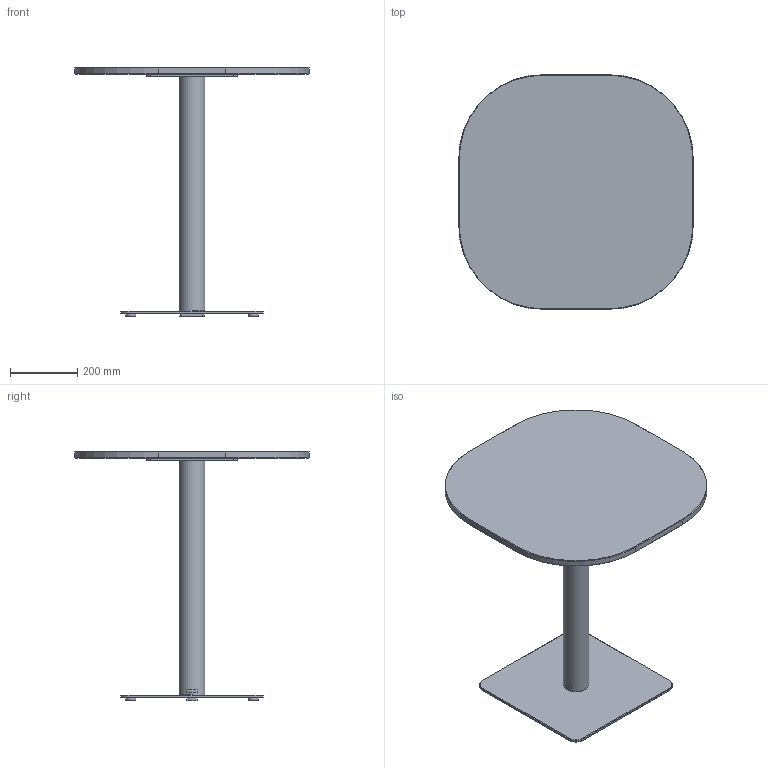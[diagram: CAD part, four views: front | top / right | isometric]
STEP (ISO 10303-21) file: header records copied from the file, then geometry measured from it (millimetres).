
FILE_DESCRIPTION( ('This file contains a STEP AP42 implementation' ,'as created by ZW3D STEP Interface translator.') ,'2;1' );
FILE_NAME( 'Henri - B_Carré - F2 - M1 - 700 x 700 x 750.stp' ,'24 912.163314', (''), ('ZWCAD Software Co.'), 'Version 1.0', 'ZW3D to STEP translator', '' );
FILE_SCHEMA(('AUTOMOTIVE_DESIGN { 1 0 10303 214 1 1 1 1 }'));
Length unit declared in the file: millimetre
Products named in the file (14): 0; PIED BISTROT PARAMETRIQUE_; COLONNE ACIER Ø76 V.02_; TUB-D076-02_; PLA-R76B-01_; CROIX ACIER 370 V.02_; CRX-X370-02_; SOCLE ACIER L 425x425 V.02_; SCL-R425-02_; PLA-R30A-01_; PLA-R30A-01; WUERTH 0276063020 Euro-screw 6.3x2 Verzinkt_; PLATEAU BISTROT PARAMETRIQUE_; insert_m6_13_
Assembly tree (22 placements, depth 3):
  0
  PIED BISTROT PARAMETRIQUE_
    COLONNE ACIER Ø76 V.02_
      TUB-D076-02_
      PLA-R76B-01_  x2
    CROIX ACIER 370 V.02_
      CRX-X370-02_
    SOCLE ACIER L 425x425 V.02_
      SCL-R425-02_
      PLA-R30A-01_
      PLA-R30A-01  x3
    WUERTH 0276063020 Euro-screw 6.3x2 Verzinkt_
    PLATEAU BISTROT PARAMETRIQUE_
      insert_m6_13_  x8
Bounding box: 700 x 700 x 744 mm (x, y, z)
Volume: 11099464.9 mm3; surface area: 1809227 mm2
Topology: 19 solids, 19 shells, 537 faces, 1310 edges, 822 vertices
Faces by surface type: plane 262, bspline 121, cylinder 98, cone 55, torus 1
Full cylindrical faces by diameter (mm): 4.88 x1, 6 x8, 6.3 x1, 8 x45, 12 x2, 14 x2, 30 x4, 72 x1, 76 x1
Entity records: 12310 total; most frequent: CARTESIAN_POINT 3396, ORIENTED_EDGE 1624, DIRECTION 1519, EDGE_CURVE 812, VERTEX_POINT 518, VECTOR 513, LINE 513, AXIS2_PLACEMENT_3D 503
